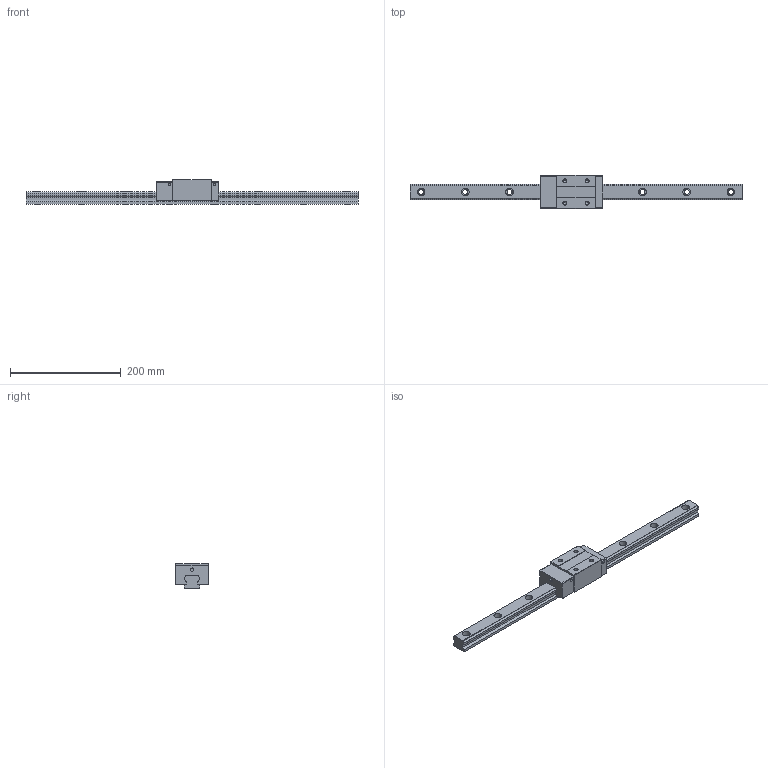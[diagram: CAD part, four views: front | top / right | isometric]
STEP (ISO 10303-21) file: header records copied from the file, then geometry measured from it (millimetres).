
FILE_DESCRIPTION (( 'STEP AP203' ), '1' );
FILE_NAME ('TRH30VN-BN.STEP', '2024-07-10T03:53:39', ( '' ), ( '' ), 'SwSTEP 2.0', 'SolidWorks 2022', '' );
FILE_SCHEMA (( 'CONFIG_CONTROL_DESIGN' ));
Length unit declared in the file: millimetre
Products named in the file (1): TRH30VN-BN
Bounding box: 600 x 60 x 45 mm (x, y, z)
Volume: 519256.5 mm3; surface area: 101120.1 mm2
Topology: 2 solids, 2 shells, 186 faces, 488 edges, 316 vertices
Faces by surface type: cylinder 88, plane 82, cone 16
Entity records: 5819 total; most frequent: DIRECTION 1038, CARTESIAN_POINT 983, ORIENTED_EDGE 960, EDGE_CURVE 480, AXIS2_PLACEMENT_3D 371, VERTEX_POINT 316, VECTOR 296, LINE 296
